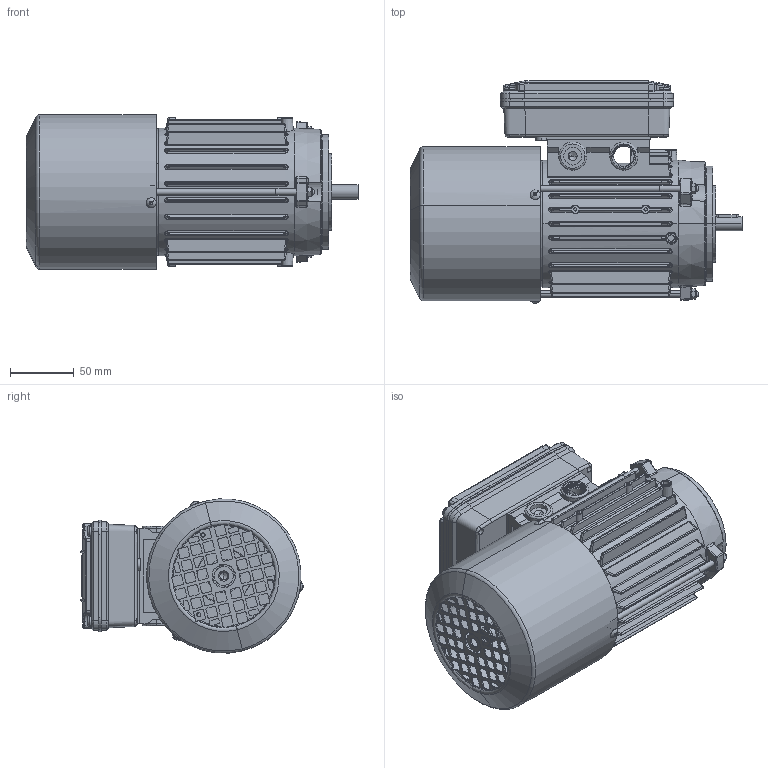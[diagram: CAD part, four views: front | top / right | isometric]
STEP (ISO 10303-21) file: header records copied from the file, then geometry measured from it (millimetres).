
FILE_DESCRIPTION (( 'STEP AP214' ), '1' );
FILE_NAME ('M14BC0012.STEP', '2018-10-25T06:51:03', ( '' ), ( '' ), 'SwSTEP 2.0', 'SolidWorks 2018', '' );
FILE_SCHEMA (( 'AUTOMOTIVE_DESIGN' ));
Length unit declared in the file: millimetre
Products named in the file (16): Coperchio per Scatola per Morsettiera Doppia 63-71-80; Scatola per Morsettiera Doppia 63-71-80; Vite testa rotonda M3; Dado M4; Tirante BM 63; Chiavetta 63; Cuffia BM 63 - DAA20098; Scudo Lato Freno BM 63 - DAAE0094; Scudo a flangia B14 BM 63 - DAAC0194; Albero BM 63; Carcassa 63 B5; M14BC0012; Scatola per Morsettiera Doppia 63-71-80 - Completa; Guarnizione Scatola Singola 63-71-80; Guarnizione Doppia Scatola gr. 63-71-80 - DBAM0094; Vite per coperchio morsettiera
Assembly tree (24 placements, depth 3):
  M14BC0012
    Carcassa 63 B5
    Albero BM 63
    Scudo a flangia B14 BM 63 - DAAC0194
    Scudo Lato Freno BM 63 - DAAE0094
    Cuffia BM 63 - DAA20098
    Chiavetta 63
    Tirante BM 63  x3
    Dado M4  x3
    Vite testa rotonda M3  x3
    Scatola per Morsettiera Doppia 63-71-80 - Completa
      Scatola per Morsettiera Doppia 63-71-80
      Coperchio per Scatola per Morsettiera Doppia 63-71-80
      Vite per coperchio morsettiera  x4
      Guarnizione Doppia Scatola gr. 63-71-80 - DBAM0094
      Guarnizione Scatola Singola 63-71-80
Bounding box: 259.99 x 174.14 x 120.71 mm (x, y, z)
Volume: 567644.9 mm3; surface area: 392970.9 mm2
Topology: 26 solids, 26 shells, 3199 faces, 8456 edges, 5243 vertices
Faces by surface type: cylinder 1068, plane 987, bspline 411, torus 384, cone 237, sphere 112
Entity records: 107872 total; most frequent: CARTESIAN_POINT 39820, ORIENTED_EDGE 14754, DIRECTION 13218, EDGE_CURVE 7377, AXIS2_PLACEMENT_3D 5097, VERTEX_POINT 4639, EDGE_LOOP 3104, VECTOR 3024
